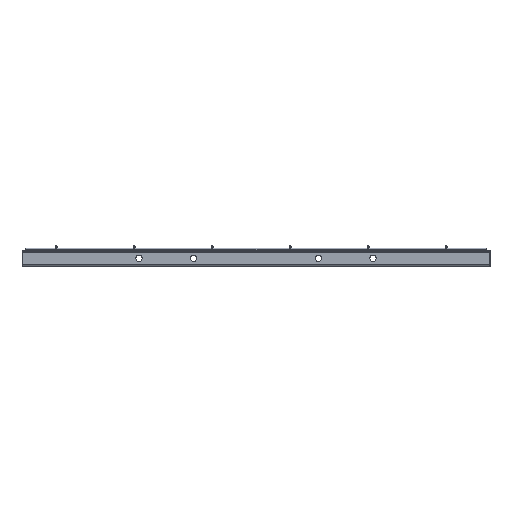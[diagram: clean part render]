
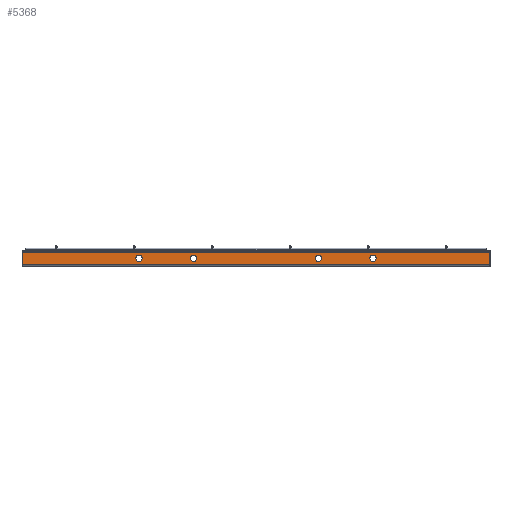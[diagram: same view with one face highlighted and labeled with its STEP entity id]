
A CAD part, left-side view. The second image highlights one B-rep face of the part: STEP entity #5368.
In plain terms, the highlighted planar face has unit normal (-1, 0, 0).
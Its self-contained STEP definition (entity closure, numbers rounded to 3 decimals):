
#44 = AXIS2_PLACEMENT_3D ( 'NONE', #5687, #3111, #5659 ) ;
#79 = FACE_BOUND ( 'NONE', #1812, .T. ) ;
#121 = VERTEX_POINT ( 'NONE', #3448 ) ;
#224 = DIRECTION ( 'NONE',  ( 1., 0., 0. ) ) ;
#306 = EDGE_LOOP ( 'NONE', ( #1813, #595 ) ) ;
#308 = LINE ( 'NONE', #410, #6119 ) ;
#331 = ORIENTED_EDGE ( 'NONE', *, *, #760, .F. ) ;
#410 = CARTESIAN_POINT ( 'NONE',  ( -350., -300., -8. ) ) ;
#494 = DIRECTION ( 'NONE',  ( 0., 0., 1. ) ) ;
#555 = AXIS2_PLACEMENT_3D ( 'NONE', #4235, #2610, #2042 ) ;
#595 = ORIENTED_EDGE ( 'NONE', *, *, #3047, .T. ) ;
#604 = DIRECTION ( 'NONE',  ( 1., 0., 0. ) ) ;
#611 = EDGE_CURVE ( 'NONE', #121, #1096, #1994, .T. ) ;
#635 = CARTESIAN_POINT ( 'NONE',  ( -350., -300., -8. ) ) ;
#689 = CARTESIAN_POINT ( 'NONE',  ( -350., 300., -8. ) ) ;
#693 = VERTEX_POINT ( 'NONE', #719 ) ;
#719 = CARTESIAN_POINT ( 'NONE',  ( -350., -150., 4. ) ) ;
#760 = EDGE_CURVE ( 'NONE', #1806, #2197, #6277, .T. ) ;
#854 = VERTEX_POINT ( 'NONE', #2174 ) ;
#856 = ORIENTED_EDGE ( 'NONE', *, *, #3083, .T. ) ;
#1039 = AXIS2_PLACEMENT_3D ( 'NONE', #5834, #1576, #4221 ) ;
#1096 = VERTEX_POINT ( 'NONE', #6799 ) ;
#1118 = FACE_BOUND ( 'NONE', #2361, .T. ) ;
#1162 = EDGE_CURVE ( 'NONE', #5860, #6273, #5311, .T. ) ;
#1179 = VERTEX_POINT ( 'NONE', #2627 ) ;
#1359 = DIRECTION ( 'NONE',  ( 0., 1., 0. ) ) ;
#1449 = VERTEX_POINT ( 'NONE', #6432 ) ;
#1519 = CARTESIAN_POINT ( 'NONE',  ( -350., 80., 0. ) ) ;
#1558 = ORIENTED_EDGE ( 'NONE', *, *, #1162, .F. ) ;
#1576 = DIRECTION ( 'NONE',  ( 1., 0., 0. ) ) ;
#1586 = EDGE_LOOP ( 'NONE', ( #1558, #4719, #331, #856 ) ) ;
#1587 = DIRECTION ( 'NONE',  ( 1., 0., 0. ) ) ;
#1670 = VECTOR ( 'NONE', #5211, 1000. ) ;
#1684 = FACE_BOUND ( 'NONE', #306, .T. ) ;
#1790 = FACE_BOUND ( 'NONE', #3446, .T. ) ;
#1806 = VERTEX_POINT ( 'NONE', #1938 ) ;
#1812 = EDGE_LOOP ( 'NONE', ( #4708, #5207 ) ) ;
#1813 = ORIENTED_EDGE ( 'NONE', *, *, #6427, .T. ) ;
#1852 = EDGE_CURVE ( 'NONE', #693, #4406, #4631, .T. ) ;
#1898 = CARTESIAN_POINT ( 'NONE',  ( -350., -80., 0. ) ) ;
#1938 = CARTESIAN_POINT ( 'NONE',  ( -350., -300., 8. ) ) ;
#1994 = CIRCLE ( 'NONE', #4702, 4. ) ;
#2042 = DIRECTION ( 'NONE',  ( 0., 0., -1. ) ) ;
#2174 = CARTESIAN_POINT ( 'NONE',  ( -350., 80., 4. ) ) ;
#2197 = VERTEX_POINT ( 'NONE', #3958 ) ;
#2359 = DIRECTION ( 'NONE',  ( 0., 0., -1. ) ) ;
#2361 = EDGE_LOOP ( 'NONE', ( #4695, #5450 ) ) ;
#2444 = VECTOR ( 'NONE', #494, 1000. ) ;
#2488 = DIRECTION ( 'NONE',  ( 0., 0., -1. ) ) ;
#2530 = CARTESIAN_POINT ( 'NONE',  ( -350., 300., 8. ) ) ;
#2610 = DIRECTION ( 'NONE',  ( 1., 0., 0. ) ) ;
#2627 = CARTESIAN_POINT ( 'NONE',  ( -350., 150., -4. ) ) ;
#2670 = DIRECTION ( 'NONE',  ( 0., 0., -1. ) ) ;
#2711 = CIRCLE ( 'NONE', #6226, 4. ) ;
#2868 = ORIENTED_EDGE ( 'NONE', *, *, #5472, .T. ) ;
#2889 = DIRECTION ( 'NONE',  ( 0., 1., 0. ) ) ;
#2918 = DIRECTION ( 'NONE',  ( 1., 0., 0. ) ) ;
#3047 = EDGE_CURVE ( 'NONE', #854, #5255, #4545, .T. ) ;
#3066 = CIRCLE ( 'NONE', #44, 4. ) ;
#3083 = EDGE_CURVE ( 'NONE', #1806, #6273, #6798, .T. ) ;
#3111 = DIRECTION ( 'NONE',  ( 1., 0., 0. ) ) ;
#3276 = FACE_OUTER_BOUND ( 'NONE', #1586, .T. ) ;
#3446 = EDGE_LOOP ( 'NONE', ( #4994, #2868 ) ) ;
#3448 = CARTESIAN_POINT ( 'NONE',  ( -350., -80., -4. ) ) ;
#3500 = DIRECTION ( 'NONE',  ( 0., 0., -1. ) ) ;
#3955 = AXIS2_PLACEMENT_3D ( 'NONE', #635, #604, #6067 ) ;
#3958 = CARTESIAN_POINT ( 'NONE',  ( -350., -300., -8. ) ) ;
#4022 = EDGE_CURVE ( 'NONE', #4406, #693, #5053, .T. ) ;
#4208 = VECTOR ( 'NONE', #2889, 1000. ) ;
#4221 = DIRECTION ( 'NONE',  ( 0., 0., -1. ) ) ;
#4235 = CARTESIAN_POINT ( 'NONE',  ( -350., -150., 0. ) ) ;
#4406 = VERTEX_POINT ( 'NONE', #4672 ) ;
#4500 = AXIS2_PLACEMENT_3D ( 'NONE', #5169, #2918, #2488 ) ;
#4545 = CIRCLE ( 'NONE', #6354, 4. ) ;
#4631 = CIRCLE ( 'NONE', #4845, 4. ) ;
#4672 = CARTESIAN_POINT ( 'NONE',  ( -350., -150., -4. ) ) ;
#4695 = ORIENTED_EDGE ( 'NONE', *, *, #611, .T. ) ;
#4702 = AXIS2_PLACEMENT_3D ( 'NONE', #1898, #5034, #3500 ) ;
#4708 = ORIENTED_EDGE ( 'NONE', *, *, #4022, .T. ) ;
#4719 = ORIENTED_EDGE ( 'NONE', *, *, #5803, .F. ) ;
#4822 = CARTESIAN_POINT ( 'NONE',  ( -350., 80., 0. ) ) ;
#4845 = AXIS2_PLACEMENT_3D ( 'NONE', #5035, #224, #2359 ) ;
#4968 = CARTESIAN_POINT ( 'NONE',  ( -350., -300., 8. ) ) ;
#4994 = ORIENTED_EDGE ( 'NONE', *, *, #5577, .T. ) ;
#5034 = DIRECTION ( 'NONE',  ( 1., 0., 0. ) ) ;
#5035 = CARTESIAN_POINT ( 'NONE',  ( -350., -150., 0. ) ) ;
#5053 = CIRCLE ( 'NONE', #555, 4. ) ;
#5169 = CARTESIAN_POINT ( 'NONE',  ( -350., 150., 0. ) ) ;
#5207 = ORIENTED_EDGE ( 'NONE', *, *, #1852, .T. ) ;
#5211 = DIRECTION ( 'NONE',  ( 0., 0., -1. ) ) ;
#5255 = VERTEX_POINT ( 'NONE', #6838 ) ;
#5311 = LINE ( 'NONE', #689, #2444 ) ;
#5368 = ADVANCED_FACE ( 'NONE', ( #1790, #1684, #1118, #79, #3276 ), #5426, .F. ) ;
#5393 = DIRECTION ( 'NONE',  ( 1., 0., 0. ) ) ;
#5426 = PLANE ( 'NONE',  #3955 ) ;
#5450 = ORIENTED_EDGE ( 'NONE', *, *, #5806, .T. ) ;
#5472 = EDGE_CURVE ( 'NONE', #1449, #1179, #6658, .T. ) ;
#5577 = EDGE_CURVE ( 'NONE', #1179, #1449, #6567, .T. ) ;
#5659 = DIRECTION ( 'NONE',  ( 0., 0., -1. ) ) ;
#5687 = CARTESIAN_POINT ( 'NONE',  ( -350., -80., 0. ) ) ;
#5803 = EDGE_CURVE ( 'NONE', #2197, #5860, #308, .T. ) ;
#5806 = EDGE_CURVE ( 'NONE', #1096, #121, #3066, .T. ) ;
#5834 = CARTESIAN_POINT ( 'NONE',  ( -350., 150., 0. ) ) ;
#5840 = CARTESIAN_POINT ( 'NONE',  ( -350., -300., -8. ) ) ;
#5860 = VERTEX_POINT ( 'NONE', #6851 ) ;
#5922 = DIRECTION ( 'NONE',  ( 0., 0., -1. ) ) ;
#6067 = DIRECTION ( 'NONE',  ( 0., 1., 0. ) ) ;
#6119 = VECTOR ( 'NONE', #1359, 1000. ) ;
#6226 = AXIS2_PLACEMENT_3D ( 'NONE', #1519, #1587, #5922 ) ;
#6273 = VERTEX_POINT ( 'NONE', #2530 ) ;
#6277 = LINE ( 'NONE', #5840, #1670 ) ;
#6354 = AXIS2_PLACEMENT_3D ( 'NONE', #4822, #5393, #2670 ) ;
#6427 = EDGE_CURVE ( 'NONE', #5255, #854, #2711, .T. ) ;
#6432 = CARTESIAN_POINT ( 'NONE',  ( -350., 150., 4. ) ) ;
#6567 = CIRCLE ( 'NONE', #1039, 4. ) ;
#6658 = CIRCLE ( 'NONE', #4500, 4. ) ;
#6798 = LINE ( 'NONE', #4968, #4208 ) ;
#6799 = CARTESIAN_POINT ( 'NONE',  ( -350., -80., 4. ) ) ;
#6838 = CARTESIAN_POINT ( 'NONE',  ( -350., 80., -4. ) ) ;
#6851 = CARTESIAN_POINT ( 'NONE',  ( -350., 300., -8. ) ) ;
